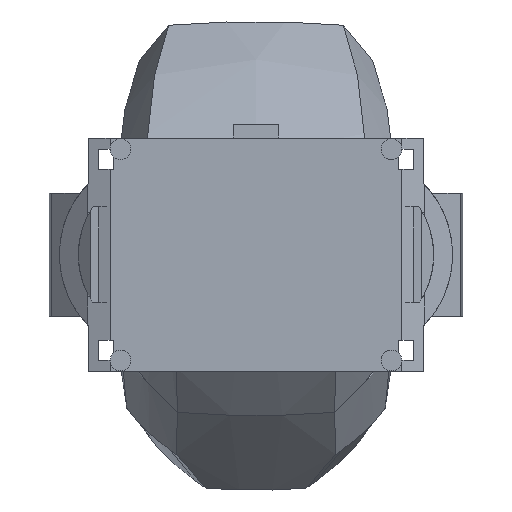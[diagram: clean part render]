
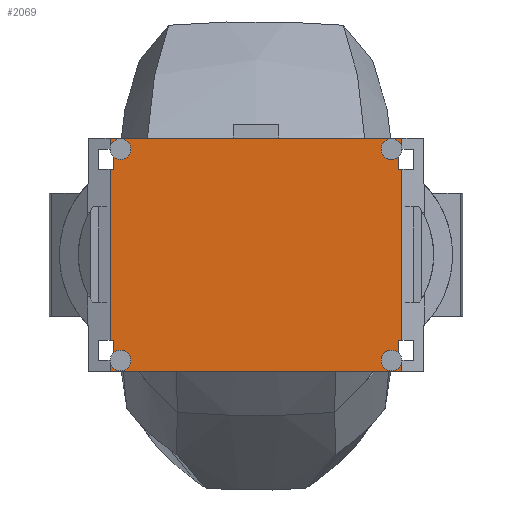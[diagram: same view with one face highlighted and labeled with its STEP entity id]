
A CAD part, front view. The second image highlights one B-rep face of the part: STEP entity #2069.
In plain terms, the highlighted planar face has unit normal (0, -1, 0).
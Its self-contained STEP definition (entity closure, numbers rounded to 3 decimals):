
#186=CIRCLE('',#2292,8.);
#187=CIRCLE('',#2293,8.);
#188=CIRCLE('',#2296,8.);
#189=CIRCLE('',#2297,8.);
#190=CIRCLE('',#2298,8.);
#191=CIRCLE('',#2299,8.);
#252=FACE_OUTER_BOUND('',#369,.T.);
#369=EDGE_LOOP('',(#1398,#1399,#1400,#1401,#1402,#1403,#1404,#1405,#1406,
#1407,#1408,#1409,#1410,#1411,#1412,#1413,#1414,#1415,#1416,#1417,#1418,
#1419));
#495=LINE('',#3074,#666);
#505=LINE('',#3109,#676);
#506=LINE('',#3111,#677);
#507=LINE('',#3113,#678);
#508=LINE('',#3115,#679);
#509=LINE('',#3117,#680);
#510=LINE('',#3122,#681);
#511=LINE('',#3124,#682);
#512=LINE('',#3128,#683);
#513=LINE('',#3130,#684);
#514=LINE('',#3132,#685);
#515=LINE('',#3134,#686);
#516=LINE('',#3136,#687);
#517=LINE('',#3140,#688);
#518=LINE('',#3142,#689);
#519=LINE('',#3143,#690);
#666=VECTOR('',#2498,10.);
#676=VECTOR('',#2538,10.);
#677=VECTOR('',#2539,10.);
#678=VECTOR('',#2540,10.);
#679=VECTOR('',#2541,10.);
#680=VECTOR('',#2542,10.);
#681=VECTOR('',#2547,10.);
#682=VECTOR('',#2548,10.);
#683=VECTOR('',#2551,10.);
#684=VECTOR('',#2552,10.);
#685=VECTOR('',#2553,10.);
#686=VECTOR('',#2554,10.);
#687=VECTOR('',#2555,10.);
#688=VECTOR('',#2558,10.);
#689=VECTOR('',#2559,10.);
#690=VECTOR('',#2560,10.);
#833=VERTEX_POINT('',#3063);
#838=VERTEX_POINT('',#3072);
#844=VERTEX_POINT('',#3094);
#845=VERTEX_POINT('',#3096);
#847=VERTEX_POINT('',#3102);
#848=VERTEX_POINT('',#3108);
#849=VERTEX_POINT('',#3110);
#850=VERTEX_POINT('',#3112);
#851=VERTEX_POINT('',#3114);
#852=VERTEX_POINT('',#3116);
#853=VERTEX_POINT('',#3118);
#854=VERTEX_POINT('',#3120);
#855=VERTEX_POINT('',#3123);
#856=VERTEX_POINT('',#3125);
#857=VERTEX_POINT('',#3127);
#858=VERTEX_POINT('',#3129);
#859=VERTEX_POINT('',#3131);
#860=VERTEX_POINT('',#3133);
#861=VERTEX_POINT('',#3135);
#862=VERTEX_POINT('',#3137);
#863=VERTEX_POINT('',#3139);
#864=VERTEX_POINT('',#3141);
#1047=EDGE_CURVE('',#838,#833,#495,.T.);
#1061=EDGE_CURVE('',#844,#847,#186,.T.);
#1062=EDGE_CURVE('',#847,#845,#187,.T.);
#1063=EDGE_CURVE('',#848,#845,#505,.T.);
#1064=EDGE_CURVE('',#849,#848,#506,.T.);
#1065=EDGE_CURVE('',#850,#849,#507,.T.);
#1066=EDGE_CURVE('',#850,#851,#508,.T.);
#1067=EDGE_CURVE('',#851,#852,#509,.T.);
#1068=EDGE_CURVE('',#852,#853,#188,.T.);
#1069=EDGE_CURVE('',#853,#854,#189,.T.);
#1070=EDGE_CURVE('',#854,#833,#510,.T.);
#1071=EDGE_CURVE('',#855,#838,#511,.T.);
#1072=EDGE_CURVE('',#855,#856,#190,.T.);
#1073=EDGE_CURVE('',#857,#856,#512,.T.);
#1074=EDGE_CURVE('',#858,#857,#513,.T.);
#1075=EDGE_CURVE('',#858,#859,#514,.T.);
#1076=EDGE_CURVE('',#859,#860,#515,.T.);
#1077=EDGE_CURVE('',#860,#861,#516,.T.);
#1078=EDGE_CURVE('',#861,#862,#191,.T.);
#1079=EDGE_CURVE('',#862,#863,#517,.T.);
#1080=EDGE_CURVE('',#864,#863,#518,.T.);
#1081=EDGE_CURVE('',#844,#864,#519,.T.);
#1398=ORIENTED_EDGE('',*,*,#1061,.T.);
#1399=ORIENTED_EDGE('',*,*,#1062,.T.);
#1400=ORIENTED_EDGE('',*,*,#1063,.F.);
#1401=ORIENTED_EDGE('',*,*,#1064,.F.);
#1402=ORIENTED_EDGE('',*,*,#1065,.F.);
#1403=ORIENTED_EDGE('',*,*,#1066,.T.);
#1404=ORIENTED_EDGE('',*,*,#1067,.T.);
#1405=ORIENTED_EDGE('',*,*,#1068,.T.);
#1406=ORIENTED_EDGE('',*,*,#1069,.T.);
#1407=ORIENTED_EDGE('',*,*,#1070,.T.);
#1408=ORIENTED_EDGE('',*,*,#1047,.F.);
#1409=ORIENTED_EDGE('',*,*,#1071,.F.);
#1410=ORIENTED_EDGE('',*,*,#1072,.T.);
#1411=ORIENTED_EDGE('',*,*,#1073,.F.);
#1412=ORIENTED_EDGE('',*,*,#1074,.F.);
#1413=ORIENTED_EDGE('',*,*,#1075,.T.);
#1414=ORIENTED_EDGE('',*,*,#1076,.T.);
#1415=ORIENTED_EDGE('',*,*,#1077,.T.);
#1416=ORIENTED_EDGE('',*,*,#1078,.T.);
#1417=ORIENTED_EDGE('',*,*,#1079,.T.);
#1418=ORIENTED_EDGE('',*,*,#1080,.F.);
#1419=ORIENTED_EDGE('',*,*,#1081,.F.);
#1998=PLANE('',#2295);
#2069=ADVANCED_FACE('',(#252),#1998,.T.);
#2292=AXIS2_PLACEMENT_3D('',#3104,#2530,#2531);
#2293=AXIS2_PLACEMENT_3D('',#3105,#2532,#2533);
#2295=AXIS2_PLACEMENT_3D('',#3107,#2536,#2537);
#2296=AXIS2_PLACEMENT_3D('',#3119,#2543,#2544);
#2297=AXIS2_PLACEMENT_3D('',#3121,#2545,#2546);
#2298=AXIS2_PLACEMENT_3D('',#3126,#2549,#2550);
#2299=AXIS2_PLACEMENT_3D('',#3138,#2556,#2557);
#2498=DIRECTION('',(1.,0.,0.));
#2530=DIRECTION('center_axis',(0.,1.,0.));
#2531=DIRECTION('ref_axis',(1.,0.,0.));
#2532=DIRECTION('center_axis',(0.,1.,0.));
#2533=DIRECTION('ref_axis',(1.,0.,0.));
#2536=DIRECTION('center_axis',(0.,-1.,0.));
#2537=DIRECTION('ref_axis',(1.,0.,0.));
#2538=DIRECTION('',(0.,0.,-1.));
#2539=DIRECTION('',(-1.,0.,0.));
#2540=DIRECTION('',(0.,0.,-1.));
#2541=DIRECTION('',(-1.,0.,0.));
#2542=DIRECTION('',(0.,0.,1.));
#2543=DIRECTION('center_axis',(0.,1.,0.));
#2544=DIRECTION('ref_axis',(1.,0.,0.));
#2545=DIRECTION('center_axis',(0.,1.,0.));
#2546=DIRECTION('ref_axis',(1.,0.,0.));
#2547=DIRECTION('',(0.,0.,1.));
#2548=DIRECTION('',(0.,0.,1.));
#2549=DIRECTION('center_axis',(0.,1.,0.));
#2550=DIRECTION('ref_axis',(1.,0.,0.));
#2551=DIRECTION('',(0.,0.,1.));
#2552=DIRECTION('',(1.,0.,0.));
#2553=DIRECTION('',(0.,0.,-1.));
#2554=DIRECTION('',(1.,0.,0.));
#2555=DIRECTION('',(0.,0.,-1.));
#2556=DIRECTION('center_axis',(0.,1.,0.));
#2557=DIRECTION('ref_axis',(1.,0.,0.));
#2558=DIRECTION('',(0.,0.,-1.));
#2559=DIRECTION('',(-1.,0.,0.));
#2560=DIRECTION('',(0.,0.,-1.));
#3063=CARTESIAN_POINT('',(112.5,-3.,90.));
#3072=CARTESIAN_POINT('',(-112.5,-3.,90.));
#3074=CARTESIAN_POINT('',(-48.461,-3.,90.));
#3094=CARTESIAN_POINT('',(112.5,-3.,-81.5));
#3096=CARTESIAN_POINT('',(109.7,-3.,-75.421));
#3102=CARTESIAN_POINT('',(96.5,-3.,-81.5));
#3104=CARTESIAN_POINT('Origin',(104.5,-3.,-81.5));
#3105=CARTESIAN_POINT('Origin',(104.5,-3.,-81.5));
#3107=CARTESIAN_POINT('Origin',(0.,-3.,
0.));
#3108=CARTESIAN_POINT('',(109.7,-3.,-66.));
#3109=CARTESIAN_POINT('',(109.7,-3.,-40.75));
#3110=CARTESIAN_POINT('',(112.5,-3.,-66.));
#3111=CARTESIAN_POINT('',(54.85,-3.,-66.));
#3112=CARTESIAN_POINT('',(112.5,-3.,66.));
#3113=CARTESIAN_POINT('',(112.5,-3.,0.));
#3114=CARTESIAN_POINT('',(109.7,-3.,66.));
#3115=CARTESIAN_POINT('',(54.85,-3.,66.));
#3116=CARTESIAN_POINT('',(109.7,-3.,75.421));
#3117=CARTESIAN_POINT('',(109.7,-3.,40.75));
#3118=CARTESIAN_POINT('',(96.5,-3.,81.5));
#3119=CARTESIAN_POINT('Origin',(104.5,-3.,81.5));
#3120=CARTESIAN_POINT('',(112.5,-3.,81.5));
#3121=CARTESIAN_POINT('Origin',(104.5,-3.,81.5));
#3122=CARTESIAN_POINT('',(112.5,-3.,0.));
#3123=CARTESIAN_POINT('',(-112.5,-3.,81.5));
#3124=CARTESIAN_POINT('',(-112.5,-3.,0.));
#3125=CARTESIAN_POINT('',(-109.7,-3.,75.421));
#3126=CARTESIAN_POINT('Origin',(-104.5,-3.,81.5));
#3127=CARTESIAN_POINT('',(-109.7,-3.,66.));
#3128=CARTESIAN_POINT('',(-109.7,-3.,40.75));
#3129=CARTESIAN_POINT('',(-112.5,-3.,66.));
#3130=CARTESIAN_POINT('',(-54.85,-3.,66.));
#3131=CARTESIAN_POINT('',(-112.5,-3.,-66.));
#3132=CARTESIAN_POINT('',(-112.5,-3.,0.));
#3133=CARTESIAN_POINT('',(-109.7,-3.,-66.));
#3134=CARTESIAN_POINT('',(-54.85,-3.,-66.));
#3135=CARTESIAN_POINT('',(-109.7,-3.,-75.421));
#3136=CARTESIAN_POINT('',(-109.7,-3.,-40.75));
#3137=CARTESIAN_POINT('',(-112.5,-3.,-81.5));
#3138=CARTESIAN_POINT('Origin',(-104.5,-3.,-81.5));
#3139=CARTESIAN_POINT('',(-112.5,-3.,-90.));
#3140=CARTESIAN_POINT('',(-112.5,-3.,0.));
#3141=CARTESIAN_POINT('',(112.5,-3.,-90.));
#3142=CARTESIAN_POINT('',(48.461,-3.,-90.));
#3143=CARTESIAN_POINT('',(112.5,-3.,0.));
